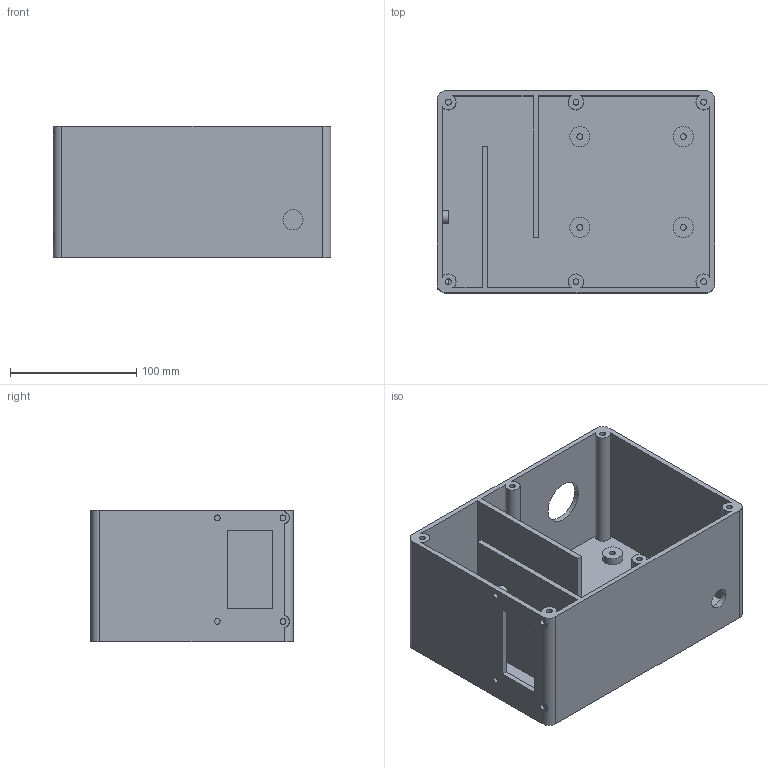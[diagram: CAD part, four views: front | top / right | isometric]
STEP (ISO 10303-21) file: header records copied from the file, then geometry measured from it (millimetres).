
FILE_DESCRIPTION(('FreeCAD Model'),'2;1');
FILE_NAME('Open CASCADE Shape Model','2026-10-19T19:41:49',('FreeCAD'),( 'FreeCAD'),'Open CASCADE STEP processor 7.8','FreeCAD','Unknown');
FILE_SCHEMA(('AUTOMOTIVE_DESIGN { 1 0 10303 214 1 1 1 1 }'));
Length unit declared in the file: millimetre
Products named in the file (1): Open CASCADE STEP translator 7.8 2
Bounding box: 220 x 160 x 104 mm (x, y, z)
Volume: 578381.8 mm3; surface area: 269819.8 mm2
Topology: 1 solids, 1 shells, 83 faces, 194 edges, 134 vertices
Faces by surface type: plane 46, cylinder 37
Full cylindrical faces by diameter (mm): 4.6 x14, 10 x2, 16 x5, 34 x1
Entity records: 2649 total; most frequent: CARTESIAN_POINT 628, DIRECTION 439, ORIENTED_EDGE 388, EDGE_CURVE 194, AXIS2_PLACEMENT_3D 167, VERTEX_POINT 134, FACE_BOUND 110, EDGE_LOOP 110
